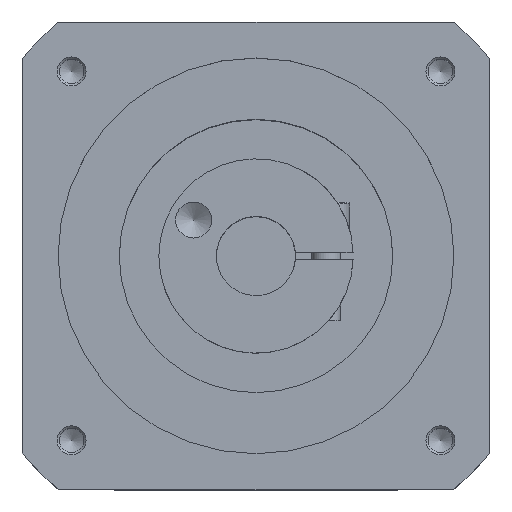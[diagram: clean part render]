
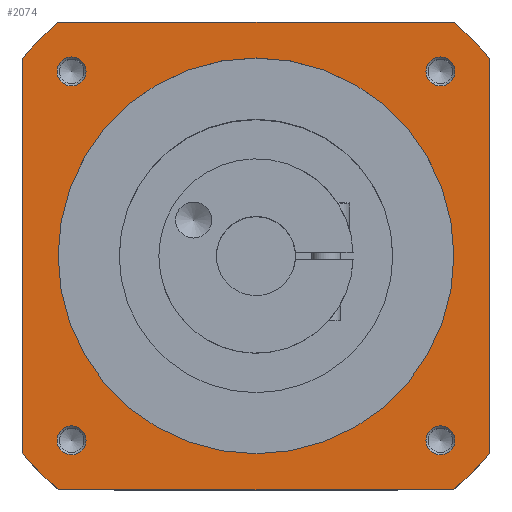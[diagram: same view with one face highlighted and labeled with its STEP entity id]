
A CAD part, top view. The second image highlights one B-rep face of the part: STEP entity #2074.
In plain terms, the highlighted planar face has unit normal (0, 0, 1).
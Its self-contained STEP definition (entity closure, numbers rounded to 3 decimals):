
#45=PLANE('',#2367);
#90=FACE_BOUND('',#361,.T.);
#91=FACE_BOUND('',#362,.T.);
#92=FACE_BOUND('',#363,.T.);
#93=FACE_BOUND('',#364,.T.);
#94=FACE_BOUND('',#365,.T.);
#230=FACE_OUTER_BOUND('',#360,.T.);
#360=EDGE_LOOP('',(#1823,#1824,#1825,#1826,#1827,#1828,#1829,#1830));
#361=EDGE_LOOP('',(#1831,#1832));
#362=EDGE_LOOP('',(#1833,#1834));
#363=EDGE_LOOP('',(#1835,#1836));
#364=EDGE_LOOP('',(#1837,#1838));
#365=EDGE_LOOP('',(#1839,#1840));
#488=LINE('',#3710,#616);
#492=LINE('',#3727,#620);
#496=LINE('',#3750,#624);
#500=LINE('',#3770,#628);
#616=VECTOR('',#2950,1000.);
#620=VECTOR('',#2962,1000.);
#624=VECTOR('',#2974,1000.);
#628=VECTOR('',#2986,1000.);
#659=CIRCLE('',#2125,4.025);
#660=CIRCLE('',#2126,4.025);
#665=CIRCLE('',#2134,4.025);
#666=CIRCLE('',#2135,4.025);
#671=CIRCLE('',#2143,4.025);
#672=CIRCLE('',#2144,4.025);
#677=CIRCLE('',#2152,4.025);
#678=CIRCLE('',#2153,4.025);
#718=CIRCLE('',#2206,55.);
#719=CIRCLE('',#2207,55.);
#811=CIRCLE('',#2354,85.);
#813=CIRCLE('',#2358,85.);
#815=CIRCLE('',#2362,85.);
#817=CIRCLE('',#2366,85.);
#826=VERTEX_POINT('',#3095);
#827=VERTEX_POINT('',#3097);
#833=VERTEX_POINT('',#3114);
#834=VERTEX_POINT('',#3116);
#840=VERTEX_POINT('',#3133);
#841=VERTEX_POINT('',#3135);
#847=VERTEX_POINT('',#3152);
#848=VERTEX_POINT('',#3154);
#898=VERTEX_POINT('',#3350);
#899=VERTEX_POINT('',#3352);
#1003=VERTEX_POINT('',#3695);
#1008=VERTEX_POINT('',#3708);
#1010=VERTEX_POINT('',#3714);
#1014=VERTEX_POINT('',#3725);
#1016=VERTEX_POINT('',#3734);
#1020=VERTEX_POINT('',#3748);
#1022=VERTEX_POINT('',#3754);
#1026=VERTEX_POINT('',#3768);
#1044=EDGE_CURVE('',#826,#827,#659,.T.);
#1045=EDGE_CURVE('',#827,#826,#660,.T.);
#1053=EDGE_CURVE('',#833,#834,#665,.T.);
#1054=EDGE_CURVE('',#834,#833,#666,.T.);
#1062=EDGE_CURVE('',#840,#841,#671,.T.);
#1063=EDGE_CURVE('',#841,#840,#672,.T.);
#1071=EDGE_CURVE('',#847,#848,#677,.T.);
#1072=EDGE_CURVE('',#848,#847,#678,.T.);
#1132=EDGE_CURVE('',#898,#899,#718,.T.);
#1133=EDGE_CURVE('',#899,#898,#719,.T.);
#1288=EDGE_CURVE('',#1003,#1008,#488,.T.);
#1291=EDGE_CURVE('',#1008,#1010,#811,.T.);
#1295=EDGE_CURVE('',#1010,#1014,#492,.T.);
#1299=EDGE_CURVE('',#1014,#1016,#813,.T.);
#1304=EDGE_CURVE('',#1020,#1016,#496,.T.);
#1307=EDGE_CURVE('',#1020,#1022,#815,.T.);
#1312=EDGE_CURVE('',#1026,#1022,#500,.T.);
#1314=EDGE_CURVE('',#1026,#1003,#817,.T.);
#1823=ORIENTED_EDGE('',*,*,#1288,.T.);
#1824=ORIENTED_EDGE('',*,*,#1291,.T.);
#1825=ORIENTED_EDGE('',*,*,#1295,.T.);
#1826=ORIENTED_EDGE('',*,*,#1299,.T.);
#1827=ORIENTED_EDGE('',*,*,#1304,.F.);
#1828=ORIENTED_EDGE('',*,*,#1307,.T.);
#1829=ORIENTED_EDGE('',*,*,#1312,.F.);
#1830=ORIENTED_EDGE('',*,*,#1314,.T.);
#1831=ORIENTED_EDGE('',*,*,#1045,.F.);
#1832=ORIENTED_EDGE('',*,*,#1044,.F.);
#1833=ORIENTED_EDGE('',*,*,#1054,.F.);
#1834=ORIENTED_EDGE('',*,*,#1053,.F.);
#1835=ORIENTED_EDGE('',*,*,#1063,.F.);
#1836=ORIENTED_EDGE('',*,*,#1062,.F.);
#1837=ORIENTED_EDGE('',*,*,#1072,.F.);
#1838=ORIENTED_EDGE('',*,*,#1071,.F.);
#1839=ORIENTED_EDGE('',*,*,#1133,.F.);
#1840=ORIENTED_EDGE('',*,*,#1132,.F.);
#2074=ADVANCED_FACE('',(#230,#90,#91,#92,#93,#94),#45,.T.);
#2125=AXIS2_PLACEMENT_3D('',#3098,#2410,#2411);
#2126=AXIS2_PLACEMENT_3D('',#3099,#2412,#2413);
#2134=AXIS2_PLACEMENT_3D('',#3117,#2431,#2432);
#2135=AXIS2_PLACEMENT_3D('',#3118,#2433,#2434);
#2143=AXIS2_PLACEMENT_3D('',#3136,#2452,#2453);
#2144=AXIS2_PLACEMENT_3D('',#3137,#2454,#2455);
#2152=AXIS2_PLACEMENT_3D('',#3155,#2473,#2474);
#2153=AXIS2_PLACEMENT_3D('',#3156,#2475,#2476);
#2206=AXIS2_PLACEMENT_3D('',#3353,#2598,#2599);
#2207=AXIS2_PLACEMENT_3D('',#3354,#2600,#2601);
#2354=AXIS2_PLACEMENT_3D('',#3716,#2956,#2957);
#2358=AXIS2_PLACEMENT_3D('',#3736,#2968,#2969);
#2362=AXIS2_PLACEMENT_3D('',#3756,#2980,#2981);
#2366=AXIS2_PLACEMENT_3D('',#3773,#2991,#2992);
#2367=AXIS2_PLACEMENT_3D('',#3774,#2993,#2994);
#2410=DIRECTION('center_axis',(0.,0.,1.));
#2411=DIRECTION('ref_axis',(1.,0.,0.));
#2412=DIRECTION('center_axis',(0.,0.,1.));
#2413=DIRECTION('ref_axis',(1.,0.,0.));
#2431=DIRECTION('center_axis',(0.,0.,1.));
#2432=DIRECTION('ref_axis',(1.,0.,0.));
#2433=DIRECTION('center_axis',(0.,0.,1.));
#2434=DIRECTION('ref_axis',(1.,0.,0.));
#2452=DIRECTION('center_axis',(0.,0.,1.));
#2453=DIRECTION('ref_axis',(1.,0.,0.));
#2454=DIRECTION('center_axis',(0.,0.,1.));
#2455=DIRECTION('ref_axis',(1.,0.,0.));
#2473=DIRECTION('center_axis',(0.,0.,1.));
#2474=DIRECTION('ref_axis',(1.,0.,0.));
#2475=DIRECTION('center_axis',(0.,0.,1.));
#2476=DIRECTION('ref_axis',(1.,0.,0.));
#2598=DIRECTION('center_axis',(0.,0.,1.));
#2599=DIRECTION('ref_axis',(1.,0.,0.));
#2600=DIRECTION('center_axis',(0.,0.,1.));
#2601=DIRECTION('ref_axis',(1.,0.,0.));
#2950=DIRECTION('',(0.,1.,0.));
#2956=DIRECTION('center_axis',(0.,0.,1.));
#2957=DIRECTION('ref_axis',(1.,0.,0.));
#2962=DIRECTION('',(-1.,0.,0.));
#2968=DIRECTION('center_axis',(0.,0.,1.));
#2969=DIRECTION('ref_axis',(1.,0.,0.));
#2974=DIRECTION('',(0.,1.,0.));
#2980=DIRECTION('center_axis',(0.,0.,1.));
#2981=DIRECTION('ref_axis',(1.,0.,0.));
#2986=DIRECTION('',(-1.,0.,0.));
#2991=DIRECTION('center_axis',(0.,0.,1.));
#2992=DIRECTION('ref_axis',(1.,0.,0.));
#2993=DIRECTION('center_axis',(0.,0.,1.));
#2994=DIRECTION('ref_axis',(1.,0.,0.));
#3095=CARTESIAN_POINT('',(47.24,51.265,198.5));
#3097=CARTESIAN_POINT('',(55.29,51.265,198.5));
#3098=CARTESIAN_POINT('Origin',(51.265,51.265,198.5));
#3099=CARTESIAN_POINT('Origin',(51.265,51.265,198.5));
#3114=CARTESIAN_POINT('',(47.24,-51.265,198.5));
#3116=CARTESIAN_POINT('',(55.29,-51.265,198.5));
#3117=CARTESIAN_POINT('Origin',(51.265,-51.265,198.5));
#3118=CARTESIAN_POINT('Origin',(51.265,-51.265,198.5));
#3133=CARTESIAN_POINT('',(-55.29,-51.265,198.5));
#3135=CARTESIAN_POINT('',(-47.24,-51.265,198.5));
#3136=CARTESIAN_POINT('Origin',(-51.265,-51.265,198.5));
#3137=CARTESIAN_POINT('Origin',(-51.265,-51.265,198.5));
#3152=CARTESIAN_POINT('',(-55.29,51.265,198.5));
#3154=CARTESIAN_POINT('',(-47.24,51.265,198.5));
#3155=CARTESIAN_POINT('Origin',(-51.265,51.265,198.5));
#3156=CARTESIAN_POINT('Origin',(-51.265,51.265,198.5));
#3350=CARTESIAN_POINT('',(-55.,0.,198.5));
#3352=CARTESIAN_POINT('',(55.,0.,198.5));
#3353=CARTESIAN_POINT('Origin',(0.,0.,198.5));
#3354=CARTESIAN_POINT('Origin',(0.,0.,198.5));
#3695=CARTESIAN_POINT('',(65.,-54.772,198.5));
#3708=CARTESIAN_POINT('',(65.,54.772,198.5));
#3710=CARTESIAN_POINT('',(65.,0.,198.5));
#3714=CARTESIAN_POINT('',(54.772,65.,198.5));
#3716=CARTESIAN_POINT('Origin',(0.,0.,198.5));
#3725=CARTESIAN_POINT('',(-54.772,65.,198.5));
#3727=CARTESIAN_POINT('',(0.,65.,198.5));
#3734=CARTESIAN_POINT('',(-65.,54.772,198.5));
#3736=CARTESIAN_POINT('Origin',(0.,0.,198.5));
#3748=CARTESIAN_POINT('',(-65.,-54.772,198.5));
#3750=CARTESIAN_POINT('',(-65.,0.,198.5));
#3754=CARTESIAN_POINT('',(-54.772,-65.,198.5));
#3756=CARTESIAN_POINT('Origin',(0.,0.,198.5));
#3768=CARTESIAN_POINT('',(54.772,-65.,198.5));
#3770=CARTESIAN_POINT('',(0.,-65.,198.5));
#3773=CARTESIAN_POINT('Origin',(0.,0.,198.5));
#3774=CARTESIAN_POINT('Origin',(0.,0.,198.5));
